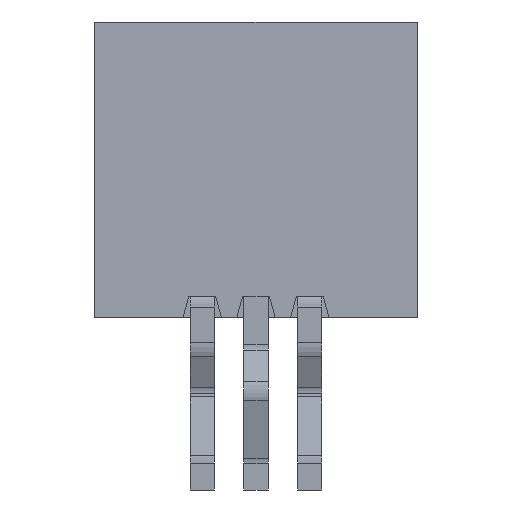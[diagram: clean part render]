
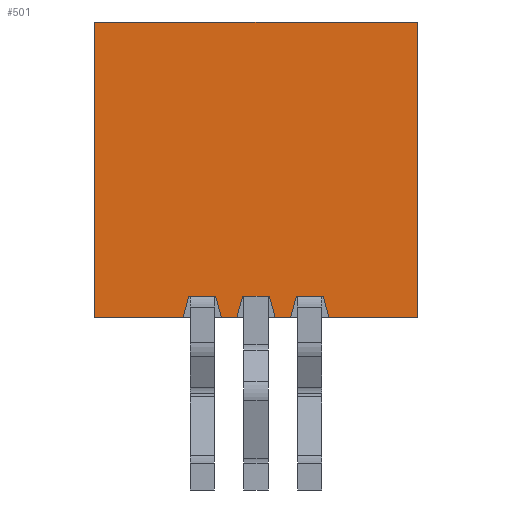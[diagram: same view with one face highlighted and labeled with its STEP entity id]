
A CAD part, front view. The second image highlights one B-rep face of the part: STEP entity #501.
In plain terms, the highlighted planar face has unit normal (0, -1, 0).
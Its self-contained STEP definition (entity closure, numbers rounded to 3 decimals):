
#9 = VERTEX_POINT ( 'NONE', #1698 ) ;
#28 = EDGE_CURVE ( 'NONE', #1224, #1627, #2944, .T. ) ;
#35 = CARTESIAN_POINT ( 'NONE',  ( -15.349, -8.95, 4.113 ) ) ;
#65 = VECTOR ( 'NONE', #655, 1000. ) ;
#88 = CARTESIAN_POINT ( 'NONE',  ( -12.857, -8.95, 5.95 ) ) ;
#138 = CARTESIAN_POINT ( 'NONE',  ( -10.775, -8.95, -2.887 ) ) ;
#176 = CARTESIAN_POINT ( 'NONE',  ( -13.143, -8.95, 5.95 ) ) ;
#183 = CARTESIAN_POINT ( 'NONE',  ( -16.5, -8.95, 11.45 ) ) ;
#207 = CARTESIAN_POINT ( 'NONE',  ( -16.5, -8.95, 0. ) ) ;
#253 = EDGE_LOOP ( 'NONE', ( #2637, #1854, #934, #2258, #2200, #1989, #780, #328, #801, #1020, #1000, #3068, #1546, #653, #1819, #2015 ) ) ;
#259 = EDGE_CURVE ( 'NONE', #538, #1517, #403, .T. ) ;
#276 = CARTESIAN_POINT ( 'NONE',  ( -11.651, -8.95, 4.113 ) ) ;
#285 = VERTEX_POINT ( 'NONE', #935 ) ;
#303 = VECTOR ( 'NONE', #1821, 1000. ) ;
#328 = ORIENTED_EDGE ( 'NONE', *, *, #2589, .F. ) ;
#332 = VECTOR ( 'NONE', #1979, 1000. ) ;
#339 = EDGE_CURVE ( 'NONE', #2963, #886, #2504, .T. ) ;
#386 = VECTOR ( 'NONE', #1260, 1000. ) ;
#403 = LINE ( 'NONE', #2916, #65 ) ;
#457 = LINE ( 'NONE', #2974, #2928 ) ;
#463 = DIRECTION ( 'NONE',  ( 0., 0., -1. ) ) ;
#478 = LINE ( 'NONE', #207, #1825 ) ;
#497 = CARTESIAN_POINT ( 'NONE',  ( -14.25, -8.95, 6.35 ) ) ;
#501 = ADVANCED_FACE ( 'NONE', ( #1417 ), #3223, .F. ) ;
#538 = VERTEX_POINT ( 'NONE', #1448 ) ;
#541 = CARTESIAN_POINT ( 'NONE',  ( 15.842, -8.95, 6.35 ) ) ;
#567 = VECTOR ( 'NONE', #800, 1000. ) ;
#597 = CARTESIAN_POINT ( 'NONE',  ( -12.143, -8.95, 5.95 ) ) ;
#599 = EDGE_CURVE ( 'NONE', #285, #9, #781, .T. ) ;
#653 = ORIENTED_EDGE ( 'NONE', *, *, #694, .F. ) ;
#655 = DIRECTION ( 'NONE',  ( -1., 0., 0. ) ) ;
#688 = CARTESIAN_POINT ( 'NONE',  ( -13.75, -8.95, 6.35 ) ) ;
#694 = EDGE_CURVE ( 'NONE', #2428, #2262, #3261, .T. ) ;
#748 = CARTESIAN_POINT ( 'NONE',  ( -27., -8.95, 11.45 ) ) ;
#780 = ORIENTED_EDGE ( 'NONE', *, *, #1225, .F. ) ;
#781 = LINE ( 'NONE', #2011, #386 ) ;
#800 = DIRECTION ( 'NONE',  ( -1., 0., 0. ) ) ;
#801 = ORIENTED_EDGE ( 'NONE', *, *, #3080, .F. ) ;
#828 = VECTOR ( 'NONE', #2286, 1000. ) ;
#886 = VERTEX_POINT ( 'NONE', #1392 ) ;
#922 = DIRECTION ( 'NONE',  ( 0., 1., 0. ) ) ;
#934 = ORIENTED_EDGE ( 'NONE', *, *, #259, .F. ) ;
#935 = CARTESIAN_POINT ( 'NONE',  ( -10.5, -8.95, 11.45 ) ) ;
#936 = LINE ( 'NONE', #3183, #1258 ) ;
#942 = LINE ( 'NONE', #748, #2302 ) ;
#963 = LINE ( 'NONE', #1790, #3161 ) ;
#997 = VERTEX_POINT ( 'NONE', #688 ) ;
#1000 = ORIENTED_EDGE ( 'NONE', *, *, #2448, .F. ) ;
#1019 = LINE ( 'NONE', #2528, #2085 ) ;
#1020 = ORIENTED_EDGE ( 'NONE', *, *, #339, .F. ) ;
#1044 = CARTESIAN_POINT ( 'NONE',  ( -27., -8.95, 5.95 ) ) ;
#1221 = DIRECTION ( 'NONE',  ( -1., 0., 0. ) ) ;
#1224 = VERTEX_POINT ( 'NONE', #1286 ) ;
#1225 = EDGE_CURVE ( 'NONE', #1348, #1327, #1519, .T. ) ;
#1238 = CARTESIAN_POINT ( 'NONE',  ( -16.5, -8.95, 5.95 ) ) ;
#1244 = DIRECTION ( 'NONE',  ( 1., 0., 0. ) ) ;
#1258 = VECTOR ( 'NONE', #2202, 1000. ) ;
#1260 = DIRECTION ( 'NONE',  ( 0., 0., -1. ) ) ;
#1277 = LINE ( 'NONE', #1044, #567 ) ;
#1286 = CARTESIAN_POINT ( 'NONE',  ( -12.75, -8.95, 6.35 ) ) ;
#1318 = CARTESIAN_POINT ( 'NONE',  ( -14.75, -8.95, 6.35 ) ) ;
#1319 = EDGE_CURVE ( 'NONE', #1327, #2380, #2668, .T. ) ;
#1327 = VERTEX_POINT ( 'NONE', #2400 ) ;
#1348 = VERTEX_POINT ( 'NONE', #3172 ) ;
#1392 = CARTESIAN_POINT ( 'NONE',  ( -13.25, -8.95, 6.35 ) ) ;
#1393 = DIRECTION ( 'NONE',  ( -0.259, 0., 0.966 ) ) ;
#1417 = FACE_OUTER_BOUND ( 'NONE', #253, .T. ) ;
#1430 = CARTESIAN_POINT ( 'NONE',  ( -11.158, -8.95, 6.65 ) ) ;
#1445 = VECTOR ( 'NONE', #2811, 1000. ) ;
#1448 = CARTESIAN_POINT ( 'NONE',  ( -14.857, -8.95, 5.95 ) ) ;
#1471 = EDGE_CURVE ( 'NONE', #9, #2428, #457, .T. ) ;
#1517 = VERTEX_POINT ( 'NONE', #1238 ) ;
#1519 = LINE ( 'NONE', #2527, #828 ) ;
#1533 = DIRECTION ( 'NONE',  ( -1., 0., 0. ) ) ;
#1546 = ORIENTED_EDGE ( 'NONE', *, *, #1549, .F. ) ;
#1549 = EDGE_CURVE ( 'NONE', #2262, #1224, #1019, .T. ) ;
#1627 = VERTEX_POINT ( 'NONE', #88 ) ;
#1629 = LINE ( 'NONE', #35, #303 ) ;
#1647 = CARTESIAN_POINT ( 'NONE',  ( -11.708, -8.95, -3.137 ) ) ;
#1698 = CARTESIAN_POINT ( 'NONE',  ( -10.5, -8.95, 5.95 ) ) ;
#1790 = CARTESIAN_POINT ( 'NONE',  ( 15.842, -8.95, 6.35 ) ) ;
#1819 = ORIENTED_EDGE ( 'NONE', *, *, #1471, .F. ) ;
#1821 = DIRECTION ( 'NONE',  ( -0.259, 0., -0.966 ) ) ;
#1825 = VECTOR ( 'NONE', #463, 1000. ) ;
#1854 = ORIENTED_EDGE ( 'NONE', *, *, #1864, .T. ) ;
#1864 = EDGE_CURVE ( 'NONE', #2635, #1517, #478, .T. ) ;
#1925 = VECTOR ( 'NONE', #1533, 1000. ) ;
#1979 = DIRECTION ( 'NONE',  ( -0.259, 0., -0.966 ) ) ;
#1989 = ORIENTED_EDGE ( 'NONE', *, *, #1319, .F. ) ;
#1993 = LINE ( 'NONE', #541, #1925 ) ;
#2011 = CARTESIAN_POINT ( 'NONE',  ( -10.5, -8.95, 0. ) ) ;
#2015 = ORIENTED_EDGE ( 'NONE', *, *, #599, .F. ) ;
#2053 = VERTEX_POINT ( 'NONE', #1318 ) ;
#2085 = VECTOR ( 'NONE', #1221, 1000. ) ;
#2200 = ORIENTED_EDGE ( 'NONE', *, *, #2744, .F. ) ;
#2202 = DIRECTION ( 'NONE',  ( -0.259, 0., -0.966 ) ) ;
#2229 = DIRECTION ( 'NONE',  ( -1., 0., 0. ) ) ;
#2258 = ORIENTED_EDGE ( 'NONE', *, *, #3186, .F. ) ;
#2262 = VERTEX_POINT ( 'NONE', #2410 ) ;
#2286 = DIRECTION ( 'NONE',  ( -1., 0., 0. ) ) ;
#2302 = VECTOR ( 'NONE', #1244, 1000. ) ;
#2338 = EDGE_CURVE ( 'NONE', #2635, #285, #942, .T. ) ;
#2380 = VERTEX_POINT ( 'NONE', #497 ) ;
#2400 = CARTESIAN_POINT ( 'NONE',  ( -14.143, -8.95, 5.95 ) ) ;
#2410 = CARTESIAN_POINT ( 'NONE',  ( -12.25, -8.95, 6.35 ) ) ;
#2428 = VERTEX_POINT ( 'NONE', #597 ) ;
#2448 = EDGE_CURVE ( 'NONE', #1627, #2963, #1277, .T. ) ;
#2500 = VECTOR ( 'NONE', #3163, 1000. ) ;
#2504 = LINE ( 'NONE', #138, #2500 ) ;
#2527 = CARTESIAN_POINT ( 'NONE',  ( 0., -8.95, 5.95 ) ) ;
#2528 = CARTESIAN_POINT ( 'NONE',  ( -11.158, -8.95, 6.35 ) ) ;
#2566 = VECTOR ( 'NONE', #1393, 1000. ) ;
#2589 = EDGE_CURVE ( 'NONE', #997, #1348, #936, .T. ) ;
#2635 = VERTEX_POINT ( 'NONE', #183 ) ;
#2637 = ORIENTED_EDGE ( 'NONE', *, *, #2338, .F. ) ;
#2668 = LINE ( 'NONE', #1647, #2566 ) ;
#2706 = DIRECTION ( 'NONE',  ( -1., 0., 0. ) ) ;
#2744 = EDGE_CURVE ( 'NONE', #2380, #2053, #1993, .T. ) ;
#2811 = DIRECTION ( 'NONE',  ( -0.259, 0., 0.966 ) ) ;
#2916 = CARTESIAN_POINT ( 'NONE',  ( 0., -8.95, 5.95 ) ) ;
#2928 = VECTOR ( 'NONE', #2706, 1000. ) ;
#2940 = DIRECTION ( 'NONE',  ( 1., 0., 0. ) ) ;
#2944 = LINE ( 'NONE', #3002, #332 ) ;
#2963 = VERTEX_POINT ( 'NONE', #176 ) ;
#2974 = CARTESIAN_POINT ( 'NONE',  ( -27., -8.95, 5.95 ) ) ;
#3002 = CARTESIAN_POINT ( 'NONE',  ( -15.292, -8.95, -3.137 ) ) ;
#3039 = AXIS2_PLACEMENT_3D ( 'NONE', #1430, #922, #2940 ) ;
#3068 = ORIENTED_EDGE ( 'NONE', *, *, #28, .F. ) ;
#3080 = EDGE_CURVE ( 'NONE', #886, #997, #963, .T. ) ;
#3161 = VECTOR ( 'NONE', #2229, 1000. ) ;
#3163 = DIRECTION ( 'NONE',  ( -0.259, 0., 0.966 ) ) ;
#3172 = CARTESIAN_POINT ( 'NONE',  ( -13.857, -8.95, 5.95 ) ) ;
#3183 = CARTESIAN_POINT ( 'NONE',  ( -14.416, -8.95, 3.863 ) ) ;
#3186 = EDGE_CURVE ( 'NONE', #2053, #538, #1629, .T. ) ;
#3223 = PLANE ( 'NONE',  #3039 ) ;
#3261 = LINE ( 'NONE', #276, #1445 ) ;
